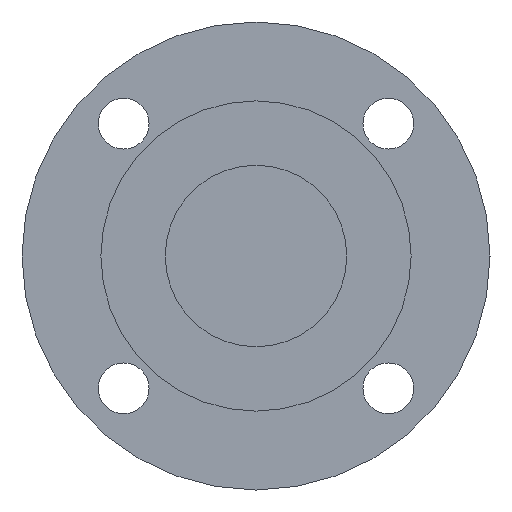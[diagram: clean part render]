
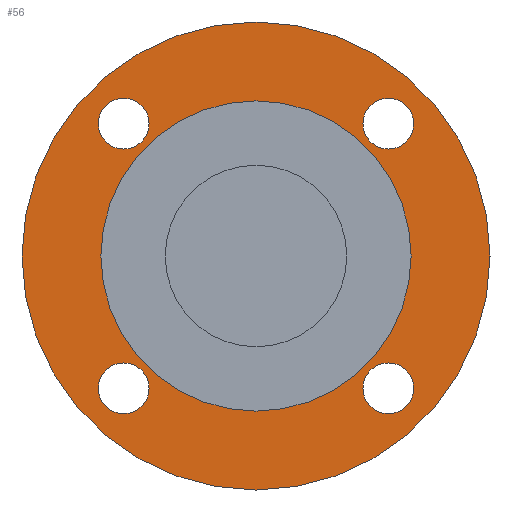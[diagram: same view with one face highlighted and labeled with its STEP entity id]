
A CAD part, left-side view. The second image highlights one B-rep face of the part: STEP entity #56.
In plain terms, the highlighted planar face has unit normal (-1, 0, 0).
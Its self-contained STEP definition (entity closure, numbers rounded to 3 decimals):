
#56=ADVANCED_FACE('',(#267,#268,#269,#270,#271,#272),#266,.T.);
#266=PLANE('',#815);
#267=FACE_OUTER_BOUND('',#816,.T.);
#268=FACE_BOUND('',#817,.T.);
#269=FACE_BOUND('',#818,.T.);
#270=FACE_BOUND('',#819,.T.);
#271=FACE_BOUND('',#820,.T.);
#272=FACE_BOUND('',#821,.T.);
#812=CARTESIAN_POINT('',(1.,-161.554,-185.));
#813=DIRECTION('',(-1.,0.,0.));
#814=DIRECTION('',(0.,0.,1.));
#815=AXIS2_PLACEMENT_3D('',#812,#813,#814);
#816=EDGE_LOOP('',(#1131,#1132));
#817=EDGE_LOOP('',(#1133,#1134));
#818=EDGE_LOOP('',(#1135,#1136));
#819=EDGE_LOOP('',(#1137,#1138));
#820=EDGE_LOOP('',(#1139,#1140));
#821=EDGE_LOOP('',(#1141,#1142));
#1131=ORIENTED_EDGE('',*,*,#1400,.T.);
#1132=ORIENTED_EDGE('',*,*,#1401,.T.);
#1133=ORIENTED_EDGE('',*,*,#1402,.F.);
#1134=ORIENTED_EDGE('',*,*,#1403,.F.);
#1135=ORIENTED_EDGE('',*,*,#1404,.F.);
#1136=ORIENTED_EDGE('',*,*,#1405,.F.);
#1137=ORIENTED_EDGE('',*,*,#1406,.F.);
#1138=ORIENTED_EDGE('',*,*,#1407,.F.);
#1139=ORIENTED_EDGE('',*,*,#1408,.F.);
#1140=ORIENTED_EDGE('',*,*,#1409,.F.);
#1141=ORIENTED_EDGE('',*,*,#1410,.F.);
#1142=ORIENTED_EDGE('',*,*,#1411,.F.);
#1400=EDGE_CURVE('',#1870,#1871,#1872,.T.);
#1401=EDGE_CURVE('',#1871,#1870,#1878,.T.);
#1402=EDGE_CURVE('',#1884,#1885,#1886,.T.);
#1403=EDGE_CURVE('',#1885,#1884,#1892,.T.);
#1404=EDGE_CURVE('',#1898,#1899,#1900,.T.);
#1405=EDGE_CURVE('',#1899,#1898,#1906,.T.);
#1406=EDGE_CURVE('',#1912,#1913,#1914,.T.);
#1407=EDGE_CURVE('',#1913,#1912,#1920,.T.);
#1408=EDGE_CURVE('',#1926,#1927,#1928,.T.);
#1409=EDGE_CURVE('',#1927,#1926,#1934,.T.);
#1410=EDGE_CURVE('',#1940,#1941,#1942,.T.);
#1411=EDGE_CURVE('',#1941,#1940,#1948,.T.);
#1870=VERTEX_POINT('',#2698);
#1871=VERTEX_POINT('',#2699);
#1872=CIRCLE('',#2703,87.5);
#1878=CIRCLE('',#2707,87.5);
#1884=VERTEX_POINT('',#2708);
#1885=VERTEX_POINT('',#2709);
#1886=CIRCLE('',#2713,9.5);
#1892=CIRCLE('',#2717,9.5);
#1898=VERTEX_POINT('',#2718);
#1899=VERTEX_POINT('',#2719);
#1900=CIRCLE('',#2723,9.5);
#1906=CIRCLE('',#2727,9.5);
#1912=VERTEX_POINT('',#2728);
#1913=VERTEX_POINT('',#2729);
#1914=CIRCLE('',#2733,9.5);
#1920=CIRCLE('',#2737,9.5);
#1926=VERTEX_POINT('',#2738);
#1927=VERTEX_POINT('',#2739);
#1928=CIRCLE('',#2743,58.);
#1934=CIRCLE('',#2747,58.);
#1940=VERTEX_POINT('',#2748);
#1941=VERTEX_POINT('',#2749);
#1942=CIRCLE('',#2753,9.5);
#1948=CIRCLE('',#2757,9.5);
#2698=CARTESIAN_POINT('',(1.,0.,87.5));
#2699=CARTESIAN_POINT('',(1.,0.,-87.5));
#2700=CARTESIAN_POINT('',(1.,0.,0.));
#2701=DIRECTION('',(-1.,0.,0.));
#2702=DIRECTION('',(0.,0.,1.));
#2703=AXIS2_PLACEMENT_3D('',#2700,#2701,#2702);
#2704=CARTESIAN_POINT('',(1.,0.,0.));
#2705=DIRECTION('',(-1.,0.,0.));
#2706=DIRECTION('',(0.,0.,1.));
#2707=AXIS2_PLACEMENT_3D('',#2704,#2705,#2706);
#2708=CARTESIAN_POINT('',(1.,49.497,58.998));
#2709=CARTESIAN_POINT('',(1.,49.497,39.998));
#2710=CARTESIAN_POINT('',(1.,49.497,49.498));
#2711=DIRECTION('',(-1.,0.,0.));
#2712=DIRECTION('',(0.,0.,-1.));
#2713=AXIS2_PLACEMENT_3D('',#2710,#2711,#2712);
#2714=CARTESIAN_POINT('',(1.,49.497,49.498));
#2715=DIRECTION('',(-1.,0.,0.));
#2716=DIRECTION('',(0.,0.,-1.));
#2717=AXIS2_PLACEMENT_3D('',#2714,#2715,#2716);
#2718=CARTESIAN_POINT('',(1.,49.497,-39.998));
#2719=CARTESIAN_POINT('',(1.,49.497,-58.998));
#2720=CARTESIAN_POINT('',(1.,49.497,-49.498));
#2721=DIRECTION('',(-1.,0.,0.));
#2722=DIRECTION('',(0.,0.,-1.));
#2723=AXIS2_PLACEMENT_3D('',#2720,#2721,#2722);
#2724=CARTESIAN_POINT('',(1.,49.497,-49.498));
#2725=DIRECTION('',(-1.,0.,0.));
#2726=DIRECTION('',(0.,0.,-1.));
#2727=AXIS2_PLACEMENT_3D('',#2724,#2725,#2726);
#2728=CARTESIAN_POINT('',(1.,-49.498,-39.998));
#2729=CARTESIAN_POINT('',(1.,-49.498,-58.998));
#2730=CARTESIAN_POINT('',(1.,-49.498,-49.498));
#2731=DIRECTION('',(-1.,0.,0.));
#2732=DIRECTION('',(0.,0.,-1.));
#2733=AXIS2_PLACEMENT_3D('',#2730,#2731,#2732);
#2734=CARTESIAN_POINT('',(1.,-49.498,-49.498));
#2735=DIRECTION('',(-1.,0.,0.));
#2736=DIRECTION('',(0.,0.,-1.));
#2737=AXIS2_PLACEMENT_3D('',#2734,#2735,#2736);
#2738=CARTESIAN_POINT('',(1.,0.,-58.));
#2739=CARTESIAN_POINT('',(1.,0.,58.));
#2740=CARTESIAN_POINT('',(1.,0.,0.));
#2741=DIRECTION('',(-1.,0.,0.));
#2742=DIRECTION('',(0.,0.,1.));
#2743=AXIS2_PLACEMENT_3D('',#2740,#2741,#2742);
#2744=CARTESIAN_POINT('',(1.,0.,0.));
#2745=DIRECTION('',(-1.,0.,0.));
#2746=DIRECTION('',(0.,0.,1.));
#2747=AXIS2_PLACEMENT_3D('',#2744,#2745,#2746);
#2748=CARTESIAN_POINT('',(1.,-49.498,58.998));
#2749=CARTESIAN_POINT('',(1.,-49.498,39.998));
#2750=CARTESIAN_POINT('',(1.,-49.498,49.498));
#2751=DIRECTION('',(-1.,0.,0.));
#2752=DIRECTION('',(0.,0.,-1.));
#2753=AXIS2_PLACEMENT_3D('',#2750,#2751,#2752);
#2754=CARTESIAN_POINT('',(1.,-49.498,49.498));
#2755=DIRECTION('',(-1.,0.,0.));
#2756=DIRECTION('',(0.,0.,-1.));
#2757=AXIS2_PLACEMENT_3D('',#2754,#2755,#2756);
